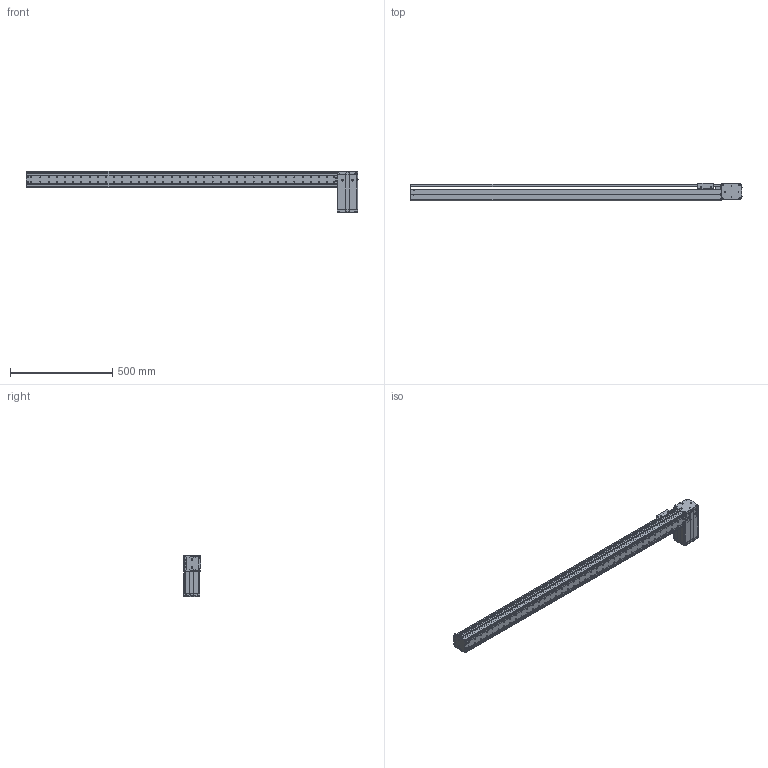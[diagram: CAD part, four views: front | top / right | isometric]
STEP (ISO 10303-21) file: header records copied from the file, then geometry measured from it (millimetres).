
FILE_DESCRIPTION((''),'2;1');
FILE_NAME('BE10_-BL-S_N-D5_IGS_PRT','2017-06-18T',(' '),(''),'PRO/ENGINEER BY PARAMETRIC TECHNOLOGY CORPORATION, 2015030','PRO/ENGINEER BY PARAMETRIC TECHNOLOGY CORPORATION, 2015030','');
FILE_SCHEMA(('CONFIG_CONTROL_DESIGN'));
Products named in the file (1): BE10_-BL-S_N-D5_IGS_PRT
Bounding box: 1620.8 x 85 x 200.22 mm (x, y, z)
Volume: 2232023.2 mm3; surface area: 1519752.7 mm2
Topology: 2 solids, 161 shells, 2205 faces, 6045 edges, 4007 vertices
Faces by surface type: plane 1059, cylinder 987, cone 103, sphere 28, torus 25, bspline 3
Entity records: 72131 total; most frequent: CARTESIAN_POINT 14798, DIRECTION 12173, ORIENTED_EDGE 11426, EDGE_CURVE 5991, AXIS2_PLACEMENT_3D 4397, VERTEX_POINT 4007, VECTOR 3379, LINE 3379
